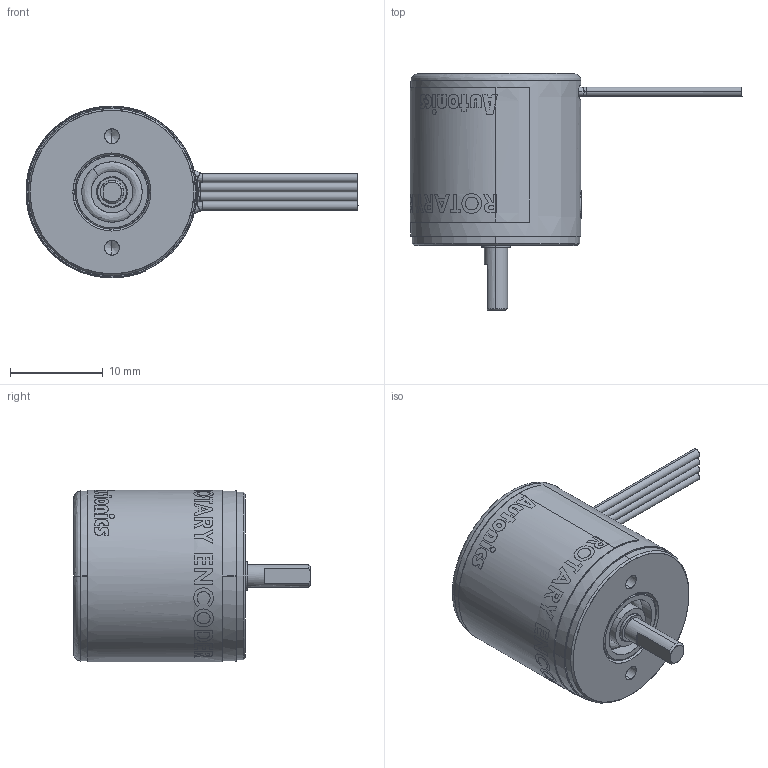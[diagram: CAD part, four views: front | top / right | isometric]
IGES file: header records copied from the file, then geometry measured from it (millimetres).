
Start section: SolidWorks IGES file using analytic representation for surfaces
Global section: file name: C:\Users\10118109\Desktop\肺磐府 浚内歹\1瞒 犁累己_2瞒 累诀_荐沥 器窃\E18\E18S2.5-100-1-N-5-S_E18S2.5-200-1-N-5-S_E18S2.5-300-1-N-5-S_(5).IGS; native system: SolidWorks 2018; preprocessor: SolidWorks 2018; author: 10118109; date: 190618.091316; units: inch
Bounding box: 35.73 x 25.5 x 18.5 mm (x, y, z)
Surface area: 2005 mm2 (no closed solid volume)
Topology: 0 solids, 0 shells, 182 faces, 2756 edges, 2746 vertices
Faces by surface type: revolution 112, bspline 70
